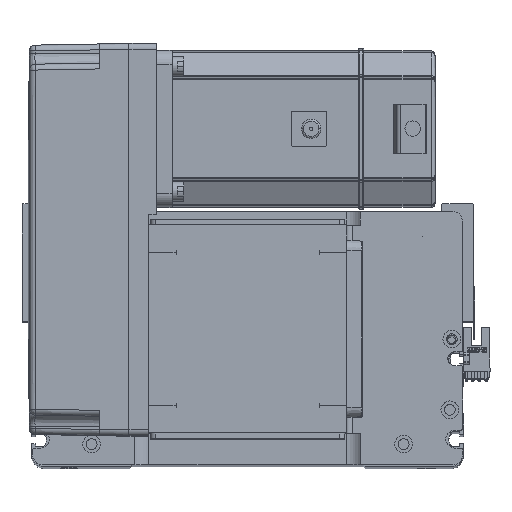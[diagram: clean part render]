
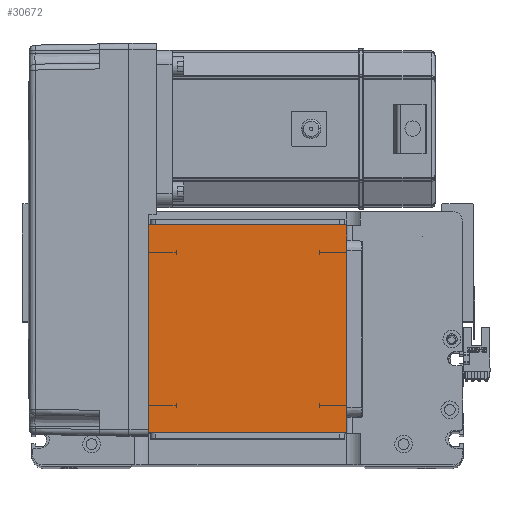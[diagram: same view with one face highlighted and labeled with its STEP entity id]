
A CAD part, top view. The second image highlights one B-rep face of the part: STEP entity #30672.
In plain terms, the highlighted planar face has unit normal (0, 0, 1).
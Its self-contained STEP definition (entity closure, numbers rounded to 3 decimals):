
#1777 = DIRECTION ( 'NONE',  ( 1., 0., 0. ) ) ;
#2574 = LINE ( 'NONE', #32939, #35284 ) ;
#3101 = LINE ( 'NONE', #36602, #10365 ) ;
#3532 = CARTESIAN_POINT ( 'NONE',  ( -50.5, 16., 115. ) ) ;
#4558 = CARTESIAN_POINT ( 'NONE',  ( 50.5, 122., 115. ) ) ;
#6373 = FACE_OUTER_BOUND ( 'NONE', #13321, .T. ) ;
#7440 = PLANE ( 'NONE',  #37256 ) ;
#7845 = CARTESIAN_POINT ( 'NONE',  ( 50.5, 122., 115. ) ) ;
#10365 = VECTOR ( 'NONE', #13407, 1000. ) ;
#11161 = LINE ( 'NONE', #38954, #39604 ) ;
#11325 = DIRECTION ( 'NONE',  ( 0., 0., 1. ) ) ;
#13321 = EDGE_LOOP ( 'NONE', ( #26616, #22963, #32390, #26054 ) ) ;
#13369 = EDGE_CURVE ( 'NONE', #21584, #42049, #3101, .T. ) ;
#13407 = DIRECTION ( 'NONE',  ( 0., -1., 0. ) ) ;
#13674 = VERTEX_POINT ( 'NONE', #40019 ) ;
#15763 = DIRECTION ( 'NONE',  ( -1., 0., 0. ) ) ;
#21584 = VERTEX_POINT ( 'NONE', #41190 ) ;
#22963 = ORIENTED_EDGE ( 'NONE', *, *, #24002, .T. ) ;
#23007 = VERTEX_POINT ( 'NONE', #7845 ) ;
#23711 = DIRECTION ( 'NONE',  ( 0., 1., 0. ) ) ;
#24002 = EDGE_CURVE ( 'NONE', #42049, #13674, #2574, .T. ) ;
#26054 = ORIENTED_EDGE ( 'NONE', *, *, #30357, .T. ) ;
#26616 = ORIENTED_EDGE ( 'NONE', *, *, #13369, .T. ) ;
#30357 = EDGE_CURVE ( 'NONE', #23007, #21584, #11161, .T. ) ;
#30672 = ADVANCED_FACE ( 'NONE', ( #6373 ), #7440, .T. ) ;
#30997 = CARTESIAN_POINT ( 'NONE',  ( 0., 0., 115. ) ) ;
#32390 = ORIENTED_EDGE ( 'NONE', *, *, #45464, .T. ) ;
#32939 = CARTESIAN_POINT ( 'NONE',  ( -50.5, 16., 115. ) ) ;
#35284 = VECTOR ( 'NONE', #1777, 1000. ) ;
#35781 = VECTOR ( 'NONE', #23711, 1000. ) ;
#36602 = CARTESIAN_POINT ( 'NONE',  ( -50.5, 122., 115. ) ) ;
#37256 = AXIS2_PLACEMENT_3D ( 'NONE', #30997, #11325, #42635 ) ;
#38954 = CARTESIAN_POINT ( 'NONE',  ( -50.5, 122., 115. ) ) ;
#39604 = VECTOR ( 'NONE', #15763, 1000. ) ;
#40019 = CARTESIAN_POINT ( 'NONE',  ( 50.5, 16., 115. ) ) ;
#41190 = CARTESIAN_POINT ( 'NONE',  ( -50.5, 122., 115. ) ) ;
#42049 = VERTEX_POINT ( 'NONE', #3532 ) ;
#42635 = DIRECTION ( 'NONE',  ( 1., 0., 0. ) ) ;
#42987 = LINE ( 'NONE', #4558, #35781 ) ;
#45464 = EDGE_CURVE ( 'NONE', #13674, #23007, #42987, .T. ) ;
